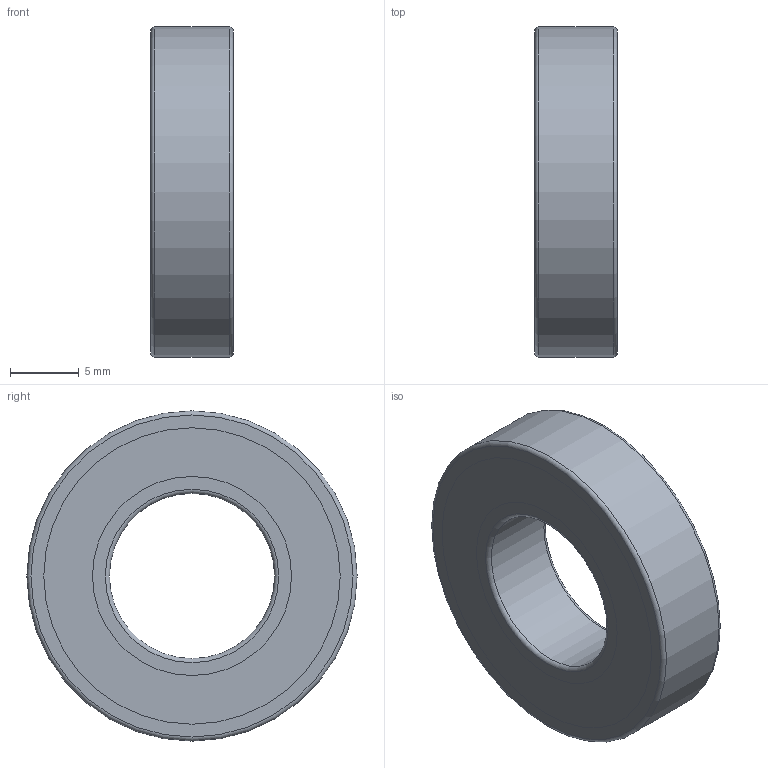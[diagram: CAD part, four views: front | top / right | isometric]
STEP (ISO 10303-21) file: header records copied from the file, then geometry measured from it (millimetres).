
FILE_DESCRIPTION(/* description */ (''),/* implementation_level */ '2;1');
FILE_NAME(/* name */ 'D:\moje\parametrické\619--\rada619-2Z\619----2Z\61901-2Z.stp',/* time_stamp */ '2016-04-06T10:11:15+02:00',/* author */ ('OUBALASKO'),/* organization */ (''),/* preprocessor_version */ 'ST-DEVELOPER v15.2',/* originating_system */ 'Autodesk Inventor 2014',/* authorisation */ '');
FILE_SCHEMA (('AUTOMOTIVE_DESIGN { 1 0 10303 214 3 1 1 }'));
Length unit declared in the file: millimetre
Products named in the file (6): 61901-02-2Z; 61901-ball; 61901-cage; 61901-01-2Z; 61901-seal-2RS,Z; 61901-2Z
Bounding box: 6 x 24 x 24 mm (x, y, z)
Volume: 1491.3 mm3; surface area: 3376.9 mm2
Topology: 18 solids, 18 shells, 144 faces, 528 edges, 348 vertices
Faces by surface type: plane 60, sphere 60, cylinder 18, torus 6
Full cylindrical faces by diameter (mm): 12 x1, 14.46 x4, 15.46 x2, 17.047 x2, 18.953 x2, 20.54 x2, 21.54 x4, 24 x1
Entity records: 3344 total; most frequent: CARTESIAN_POINT 1314, DIRECTION 456, ORIENTED_EDGE 346, AXIS2_PLACEMENT_3D 228, EDGE_CURVE 173, VERTEX_POINT 126, CIRCLE 125, EDGE_LOOP 109
